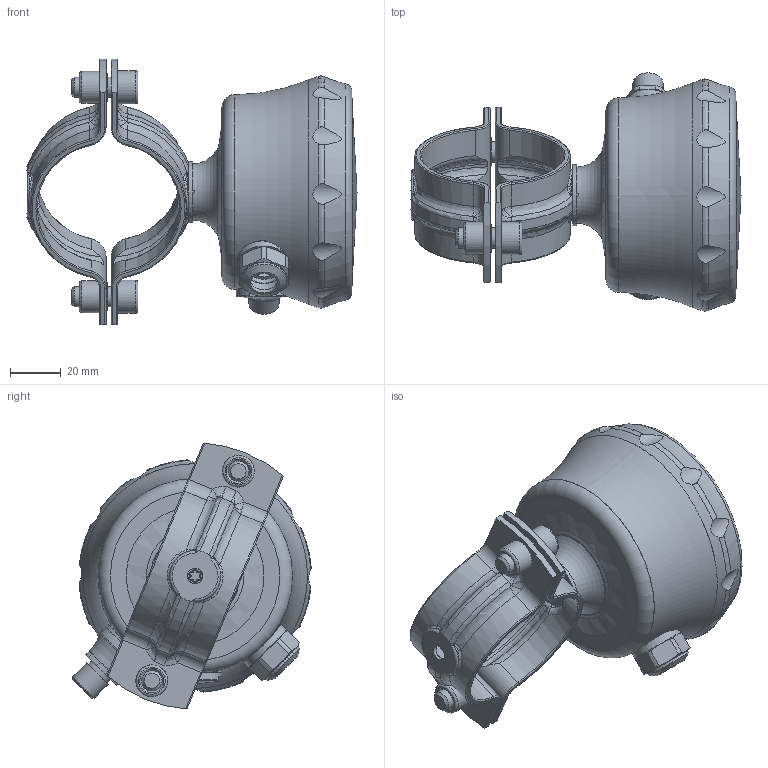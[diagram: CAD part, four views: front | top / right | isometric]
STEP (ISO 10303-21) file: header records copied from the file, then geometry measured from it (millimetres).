
FILE_DESCRIPTION( ( 'Unknown' ), '1' );
FILE_NAME( 'Z:/U_Proces/dokumentation new/Mechanical parts/7000 3D Step filer/7000-/7000318/TFR5-B131.XXXX.0000.stp', 'Unknown', ( 'Unknown' ), ( 'Unknown' ), 'PSStep 15.0.49', 'Unknown', ' ' );
FILE_SCHEMA( ( 'AUTOMOTIVE_DESIGN { 1 0 10303 214 1 1 1 1 }' ) );
Length unit declared in the file: millimetre
Products named in the file (1): 11123584
Bounding box: 129.51 x 93.56 x 104.31 mm (x, y, z)
Volume: 111676.4 mm3; surface area: 77576.9 mm2
Topology: 1 solids, 8 shells, 719 faces, 1761 edges, 1099 vertices
Faces by surface type: cylinder 243, plane 162, torus 132, bspline 96, cone 85, sphere 1
Full cylindrical faces by diameter (mm): 1.64 x4, 3.4 x2, 5.5 x1, 6 x3, 6.1 x1, 7.709 x1, 8 x4, 10.5 x2, 10.82 x1, 11 x5, 11.741 x1, 11.9 x1, 12.5 x2, 13 x2, 13.5 x1, 13.8 x2, 14.376 x1, 15.5 x1, 15.85 x1, 16 x9, 17.86 x1, 18.9 x2, 20.8 x3, 21 x1, 24 x1, 40 x1, 76.333 x1, 81.2 x1, 81.5 x1, 83.7 x1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
Entity records: 32631 total; most frequent: CARTESIAN_POINT 11928, ORIENTED_EDGE 3104, DIRECTION 2931, EDGE_CURVE 1552, AXIS2_PLACEMENT_3D 1315, VERTEX_POINT 1022, EDGE_LOOP 920, FACE_OUTER_BOUND 801
